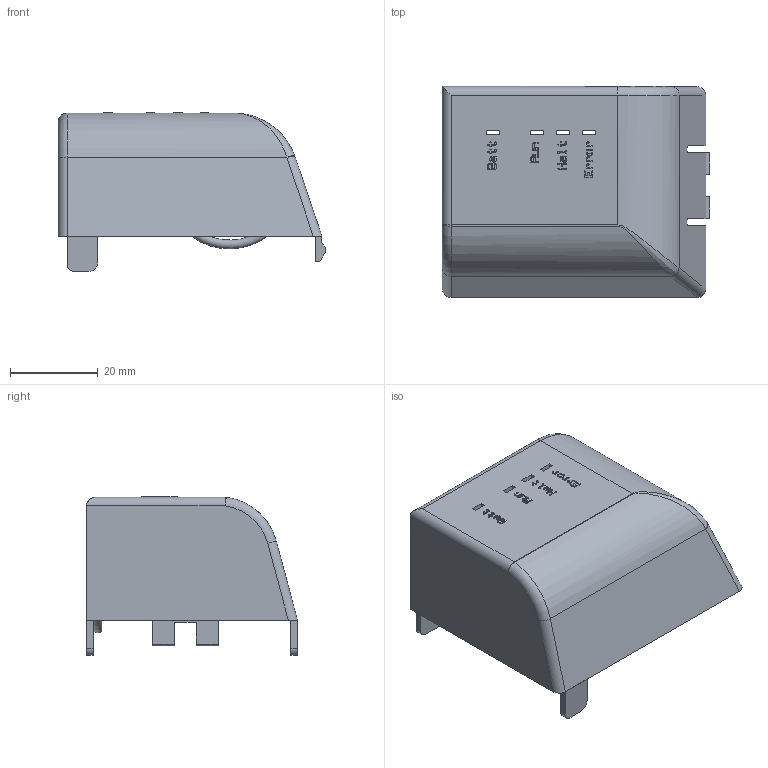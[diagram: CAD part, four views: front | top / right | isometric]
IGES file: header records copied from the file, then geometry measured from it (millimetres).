
Global section: file name: SBC_IGES_PLC_410474930_Cover-PCD3-M5-M6_2021-09-03.iges; native system: CAD Exchanger; preprocessor: CAD Exchanger 3.9.1 (cadexchanger.com); date: 20210903.160011; units: millimetre
Bounding box: 60.9 x 48 x 36.1 mm (x, y, z)
Volume: 11040.7 mm3; surface area: 15666.5 mm2
Topology: 20 solids, 20 shells, 521 faces, 1429 edges, 944 vertices
Faces by surface type: extrusion 266, plane 218, cylinder 27, torus 4, bspline 4, sphere 2
